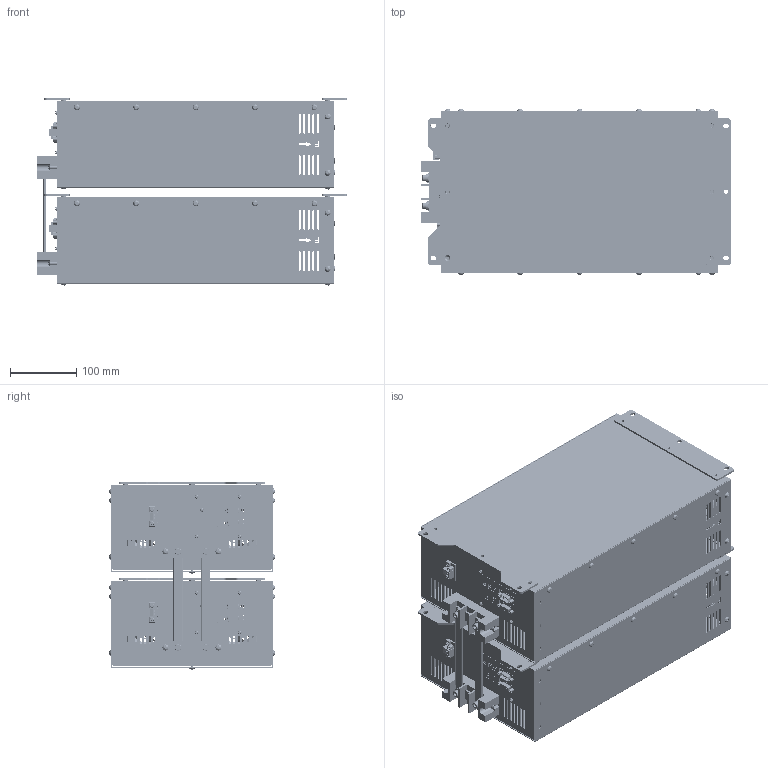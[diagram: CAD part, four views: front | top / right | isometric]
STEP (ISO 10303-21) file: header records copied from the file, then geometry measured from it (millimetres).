
FILE_DESCRIPTION(/* description */ (''),/* implementation_level */ '2;1');
FILE_NAME(/* name */ 'G:\016_배터리 버스바 도면\VX3COM\[3D 도면-11자형]\BUS-VX3-2P-11-L160.stp',/* time_stamp */ '2024-03-12T15:37:21+09:00',/* author */ ('jjang'),/* organization */ (''),/* preprocessor_version */ 'ST-DEVELOPER v18.1',/* originating_system */ 'Autodesk Inventor 2021',/* authorisation */ '');
FILE_SCHEMA (('AUTOMOTIVE_DESIGN { 1 0 10303 214 3 1 1 }'));
Products named in the file (1): $VX3COM BUSBAR ASS'Y(11)_Shrinkwrap_1
Bounding box: 468 x 250.09 x 282.64 mm (x, y, z)
Volume: 1424418.4 mm3; surface area: 1810100.8 mm2
Topology: 13 solids, 13 shells, 8582 faces, 25700 edges, 17840 vertices
Faces by surface type: plane 4540, cylinder 2386, bspline 1260, torus 256, cone 86, sphere 54
Full cylindrical faces by diameter (mm): 0.609 x2, 0.61 x54, 0.635 x18, 0.9 x12, 1.397 x18, 1.4 x2, 2.286 x18, 2.8 x16, 2.957 x8, 3 x4, 3.048 x8, 3.2 x8, 3.6 x20, 3.783 x4, 3.8 x4, 3.9 x4, 4 x54, 4.3 x24, 4.5 x16, 5 x34, 5.3 x40, 5.4 x4, 5.429 x4, 5.6 x8, 6 x4, 6.082 x2, 6.2 x2, 6.6 x2, 8 x2, 8.4 x24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
Entity records: 352722 total; most frequent: CARTESIAN_POINT 117223, ORIENTED_EDGE 51324, DIRECTION 42778, EDGE_CURVE 25662, VERTEX_POINT 17840, AXIS2_PLACEMENT_3D 14571, LINE 13636, VECTOR 13636
